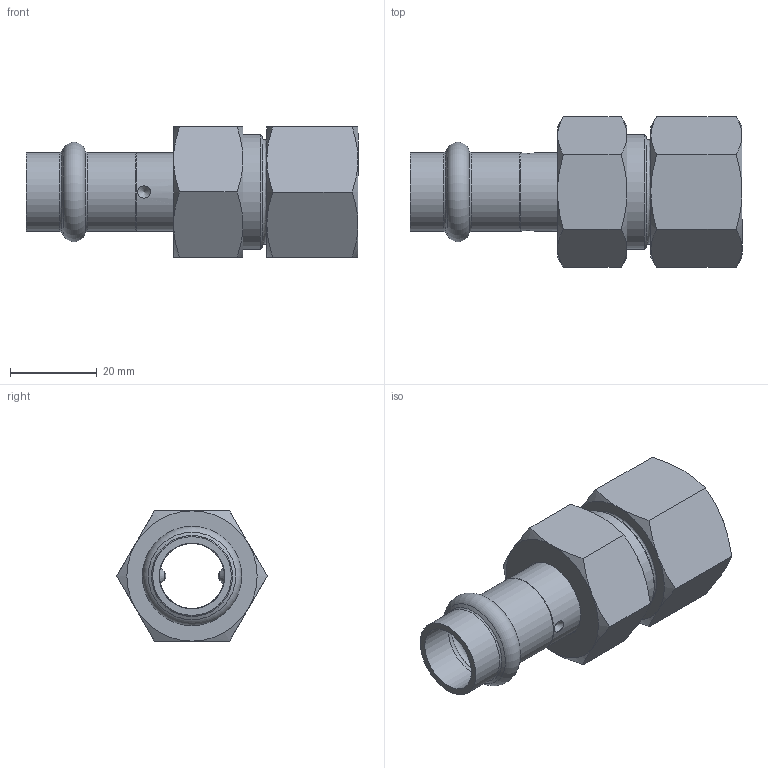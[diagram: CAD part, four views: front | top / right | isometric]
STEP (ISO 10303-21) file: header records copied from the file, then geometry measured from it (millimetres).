
FILE_DESCRIPTION((''),'2;1');
FILE_NAME('G:\Nirosan-Schmiedefeld\Technics\CAD\Bauteile VA\015\69330G1534(4).stp','2011-09-20T14:43:25',('herberg'),(''),'Autodesk Inventor 2009','Autodesk Inventor 2009','');
FILE_SCHEMA(('AUTOMOTIVE_DESIGN { 1 0 10303 214 1 1 1 1 }'));
Length unit declared in the file: millimetre
Products named in the file (7): 69330G1534(4); 69359mms1534(1); HM_692431815(0); R1834(0); MS_SM1534(2); FD_2417_EPDM(0); 69370G3434(1)
Assembly tree (6 placements, depth 3):
  69330G1534(4)
    69359mms1534(1)
      HM_692431815(0)
      R1834(0)
      MS_SM1534(2)
      FD_2417_EPDM(0)
    69370G3434(1)
Bounding box: 76.5 x 34.64 x 30 mm (x, y, z)
Volume: 20410.5 mm3; surface area: 16225.3 mm2
Topology: 5 solids, 5 shells, 90 faces, 190 edges, 114 vertices
Faces by surface type: cone 37, plane 25, cylinder 12, bspline 12, sphere 2, torus 2
Full cylindrical faces by diameter (mm): 15 x2, 15.15 x2, 17 x1, 18 x2, 18.15 x2, 23 x1, 24 x1, 26.441 x1
Entity records: 2834 total; most frequent: CARTESIAN_POINT 1054, DIRECTION 340, ORIENTED_EDGE 282, AXIS2_PLACEMENT_3D 164, EDGE_LOOP 142, EDGE_CURVE 141, VERTEX_POINT 103, FACE_OUTER_BOUND 90
